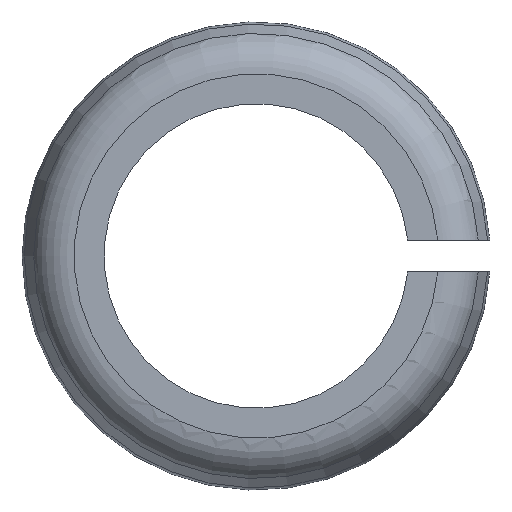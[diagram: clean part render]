
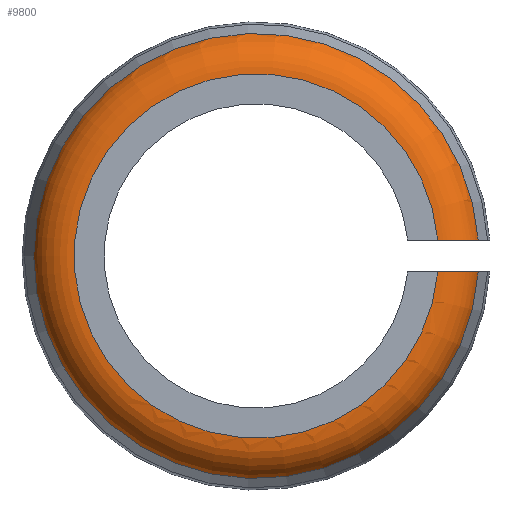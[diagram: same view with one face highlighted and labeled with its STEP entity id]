
A CAD part, left-side view. The second image highlights one B-rep face of the part: STEP entity #9800.
In plain terms, the highlighted toroidal (fillet/blend) face has major radius 8.559 mm and minor radius 2 mm.
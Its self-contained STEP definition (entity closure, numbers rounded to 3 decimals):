
#960=CARTESIAN_POINT('',(-48.247,-7.016,
249.263));
#970=VERTEX_POINT('',#960);
#1130=CARTESIAN_POINT('',(-46.948,-7.016,
248.513));
#1140=VERTEX_POINT('',#1130);
#1170=CARTESIAN_POINT('',(-51.86,-7.016,
241.505));
#1180=DIRECTION('',(0.,1.,0.));
#1190=DIRECTION('',(-0.966,0.,
-0.259));
#1200=AXIS2_PLACEMENT_3D('',#1170,#1180,#1190);
#1210=CIRCLE('',#1200,8.558);
#1220=EDGE_CURVE('',#1140,#970,#1210,.T.);
#1320=CARTESIAN_POINT('',(-44.257,15.404,
253.174));
#1330=DIRECTION('',(0.866,0.,
-0.5));
#1340=DIRECTION('',(-0.5,0.,
-0.866));
#1350=AXIS2_PLACEMENT_3D('',#1320,#1330,#1340);
#1360=PLANE('',#1350);
#1570=CARTESIAN_POINT('',(-49.806,15.404,
246.562));
#1580=DIRECTION('',(-0.866,0.,
0.5));
#1590=DIRECTION('',(0.5,0.,
0.866));
#1600=AXIS2_PLACEMENT_3D('',#1570,#1580,#1590);
#1610=PLANE('',#1600);
#6060=CARTESIAN_POINT('',(-45.996,-5.649,
250.161));
#6070=VERTEX_POINT('',#6060);
#6100=CARTESIAN_POINT('',(-51.86,-5.016,
241.505));
#6110=DIRECTION('',(0.,1.,0.));
#6120=DIRECTION('',(-0.966,0.,
-0.259));
#6130=AXIS2_PLACEMENT_3D('',#6100,#6110,#6120);
#6140=TOROIDAL_SURFACE('',#6130,8.558,2.);
#6150=CARTESIAN_POINT('',(-46.948,-7.016,
248.513));
#6160=CARTESIAN_POINT('',(-46.896,-7.016,
248.603));
#6170=CARTESIAN_POINT('',(-46.844,-7.008,
248.693));
#6180=CARTESIAN_POINT('',(-46.792,-6.992,
248.783));
#6190=CARTESIAN_POINT('',(-46.741,-6.976,
248.872));
#6200=CARTESIAN_POINT('',(-46.689,-6.952,
248.961));
#6210=CARTESIAN_POINT('',(-46.64,-6.92,
249.047));
#6220=CARTESIAN_POINT('',(-46.541,-6.856,
249.218));
#6230=CARTESIAN_POINT('',(-46.447,-6.762,
249.381));
#6240=CARTESIAN_POINT('',(-46.362,-6.639,
249.529));
#6250=CARTESIAN_POINT('',(-46.276,-6.517,
249.676));
#6260=CARTESIAN_POINT('',(-46.202,-6.37,
249.805));
#6270=CARTESIAN_POINT('',(-46.14,-6.202,
249.913));
#6280=CARTESIAN_POINT('',(-46.078,-6.033,
250.02));
#6290=CARTESIAN_POINT('',(-46.029,-5.845,
250.105));
#6300=CARTESIAN_POINT('',(-45.996,-5.649,
250.161));
#6310=B_SPLINE_CURVE_WITH_KNOTS('',3,(#6150,#6160,#6170,#6180,#6190,
#6200,#6210,#6220,#6230,#6240,#6250,#6260,#6270,#6280,#6290,#6300),
.UNSPECIFIED.,.F.,.F.,(4,3,3,3,3,4),(0.,0.312,
0.626,1.252,1.877,2.503),
.UNSPECIFIED.);
#6320=SURFACE_CURVE('',#6310,(#6140,#1360),.CURVE_3D.);
#6330=EDGE_CURVE('',#1140,#6070,#6320,.T.);
#8280=CARTESIAN_POINT('',(-47.295,-5.649,
250.911));
#8290=CARTESIAN_POINT('',(-47.328,-5.846,
250.854));
#8300=CARTESIAN_POINT('',(-47.376,-6.032,
250.771));
#8310=CARTESIAN_POINT('',(-47.439,-6.201,
250.663));
#8320=CARTESIAN_POINT('',(-47.501,-6.37,
250.555));
#8330=CARTESIAN_POINT('',(-47.576,-6.517,
250.426));
#8340=CARTESIAN_POINT('',(-47.66,-6.639,
250.279));
#8350=CARTESIAN_POINT('',(-47.745,-6.761,
250.132));
#8360=CARTESIAN_POINT('',(-47.84,-6.856,
249.968));
#8370=CARTESIAN_POINT('',(-47.939,-6.919,
249.797));
#8380=CARTESIAN_POINT('',(-47.988,-6.951,
249.711));
#8390=CARTESIAN_POINT('',(-48.039,-6.976,
249.623));
#8400=CARTESIAN_POINT('',(-48.091,-6.992,
249.533));
#8410=CARTESIAN_POINT('',(-48.143,-7.008,
249.444));
#8420=CARTESIAN_POINT('',(-48.195,-7.016,
249.353));
#8430=CARTESIAN_POINT('',(-48.247,-7.016,
249.263));
#8440=B_SPLINE_CURVE_WITH_KNOTS('',3,(#8280,#8290,#8300,#8310,#8320,
#8330,#8340,#8350,#8360,#8370,#8380,#8390,#8400,#8410,#8420,#8430),
.UNSPECIFIED.,.F.,.F.,(4,3,3,3,3,4),(0.,0.625,
1.251,1.877,2.19,2.503),
.UNSPECIFIED.);
#8450=SURFACE_CURVE('',#8440,(#6140,#1610),.CURVE_3D.);
#8460=CARTESIAN_POINT('',(-47.295,-5.649,
250.911));
#8470=VERTEX_POINT('',#8460);
#8480=EDGE_CURVE('',#8470,#970,#8450,.T.);
#9560=CARTESIAN_POINT('',(-51.86,-5.649,
241.505));
#9570=DIRECTION('',(0.,1.,0.));
#9580=DIRECTION('',(-0.966,0.,
-0.259));
#9590=AXIS2_PLACEMENT_3D('',#9560,#9570,#9580);
#9600=CIRCLE('',#9590,10.456);
#9610=EDGE_CURVE('',#6070,#8470,#9600,.T.);
#9740=ORIENTED_EDGE('',*,*,#6330,.F.);
#9750=ORIENTED_EDGE('',*,*,#9610,.F.);
#9760=ORIENTED_EDGE('',*,*,#8480,.F.);
#9770=ORIENTED_EDGE('',*,*,#1220,.T.);
#9780=EDGE_LOOP('',(#9770,#9760,#9750,#9740));
#9790=FACE_OUTER_BOUND('',#9780,.T.);
#9800=ADVANCED_FACE('',(#9790),#6140,.T.);
